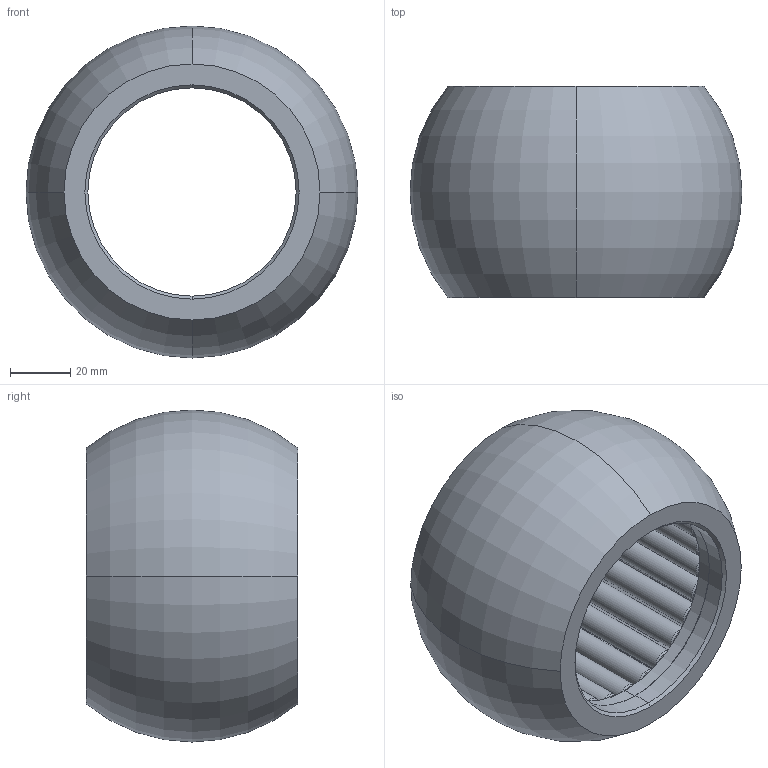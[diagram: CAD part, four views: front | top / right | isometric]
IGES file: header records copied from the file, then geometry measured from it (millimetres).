
Start section: 3D InterOp IGES (Version 20 0 1), Spatial Corp. Copyright (c) 1999-2007.
Global section: file name: 15.xx.69.igs; native system: Spatial Corp.; preprocessor: 3D InterOp GENERIC/IGES 3.0; author: Noname; organization: Noname; date: 20111114.154836; units: metre
Bounding box: 110 x 70 x 110 mm (x, y, z)
Surface area: 128653.1 mm2 (no closed solid volume)
Topology: 0 solids, 0 shells, 636 faces, 2656 edges, 2656 vertices
Faces by surface type: revolution 516, extrusion 120
